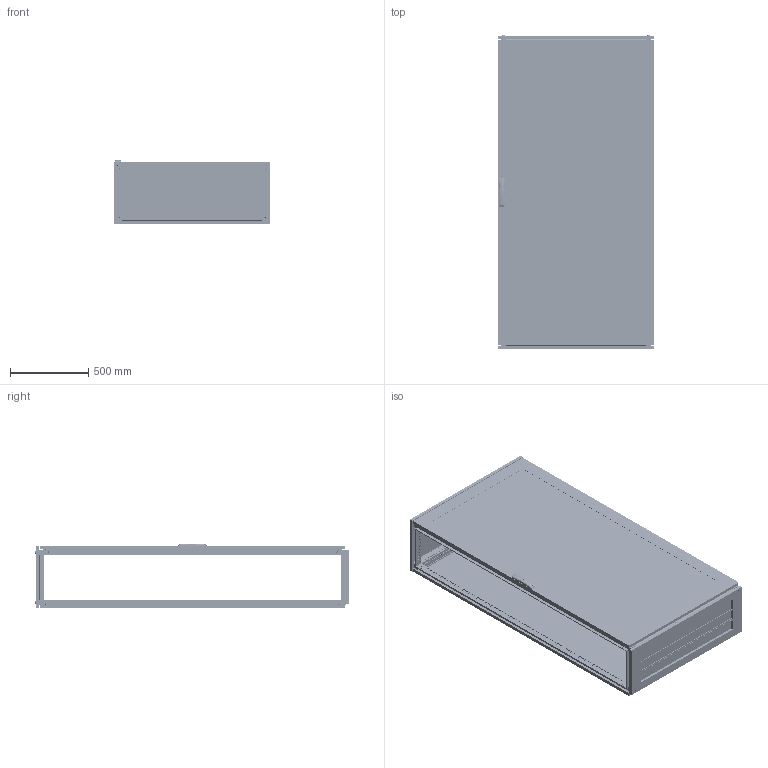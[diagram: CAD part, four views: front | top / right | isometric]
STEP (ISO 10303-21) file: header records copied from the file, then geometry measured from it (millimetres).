
FILE_DESCRIPTION (( 'STEP AP203' ), '1' );
FILE_NAME ('R5CQEN20104AX.STEP', '2025-05-07T12:01:43', ( '' ), ( '' ), 'SwSTEP 2.0', 'SolidWorks 2022', '' );
FILE_SCHEMA (( 'CONFIG_CONTROL_DESIGN' ));
Length unit declared in the file: millimetre
Products named in the file (65): PF 5x10 KTB simple_1000x400; RB.0054.01.01.0 simple_-25; М6х12 A5100231_straight; M6x10 DIN 912 HX cl.8,8 Zinc_straight; M12x16 ISO 7380-1 HX cl.4,8 Zinc_straight; RB.2052.00.00.0 СБ simple_-25; TPA.08.0084.00.00.0 simple; M6 MGR-MKO-0625 simple_Thread; RB.2499.00.00.0 СБ simple_-24; PF 7,5x15 CPE simple_2000x1000; TPA.08.0083.00.00.0 simple; RB.1867.01.00.0 СБ simple_-58; Glass CPTE_2000x1000; RB.2696.00.00.0 simple; ATOS Traction guide ILY03.35; RB.2172.00.00.1 simple; R5NKTB - Assem simple_H=2000 R5NKTB104; Square cap 20x20 simple; RB.2680.00.01.0 simple; RB.2457.00.00.0 СБ simple_-24; M6x10 DIN 7500 E HX cl.5.8 Zinc_straight; RB.2052.01.00.0 СБ simple_-25; RB.2357.00.00.0 simple_-07; 7 DIN 6799 Zinc simple; RB.0528.00.01.0 simple_-05; 4.8x13 DIN 7981 PH Zinc_straight; RB.2755.00.00.0 СБ simple_-24; RB.2455.00.00.0 simple_-04; R5NCRE-Assem simple_R5NCRE20100; R5NKMN - Assem simple_R5NKMN20 (1000х400); TPA.08.0139.00.03.0; AC00C446-R; M6x15 Erickson cl.4,8 Zinc; RB.0562.00.00.0 СБ simple_-17; M6 DIN 985 cl.6,0 Zinc_straight; RB.2528.00.00.0 simple_-05; RB.2499.01.00.0 СБ simple_-23; 7 DIN 6799 Zinc; RB.1728.00.00.0 simple_-03; RB.2968.00.00.0 simple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
Assembly tree (176 placements, depth 5):
  R5CQEN20104AX
    R5NCPTE - Assem simple_R5NCPTE20100
      RB.0562.00.00.0 СБ simple_-17
        RB.0562.01.00.0 СБ simple_-17
          RB.0562.01.01.0 simple_-17
          М6х12 A5100231_straight  x9
          RB.2702.00.00.0 simple  x4
          PF 7,5x15 CPE simple_2000x1000
          Glass CPTE_2000x1000
          Glue CPTE simple_2000x1000
        Square cap 20x20 simple  x2
        M6x15 Erickson cl.4,8 Zinc  x3
        RB.0528.00.01.0 simple_-05  x2
        ATOS Traction guide ILY03.35  x4
        RB.2357.00.00.0 simple_-07
        RB.2680.00.00.0 СБ simple
          TPA.08.0139.00.01.0 simple
          RB.2680.00.01.0 simple
          RB.2680.00.02.0 simple  x2
        TPA.08.0139.00.03.0  x2
        M6 DIN 985 cl.6,0 Zinc_straight  x4
        4,0x16 F Torx Zinc (ART 88200)_thread  x2
        RB.0528.04.00.0 СБ simple  x2
          RB.0528.04.01.0 simple
          Pressing stud FH-M6-12_M6x12mm
      M6x10 DIN 912 HX cl.8,8 Zinc_straight  x8
      4.8x13 DIN 7981 PH Zinc_straight
      7 DIN 6799 Zinc simple  x4
      RB.2968.00.00.0 simple  x4
      RB.2969.00.00.0 СБ simple  x4
        RB.2969.00.01.0 simple
        Pin 4x16 DIN 7 AISI 303 (A1) simple
        M6 MGR-MKO-0625 simple_Thread
      AC00C446-R
      RB.2696.00.00.0 simple  x4
      7 DIN 6799 Zinc  x4
    R5NCRE-Assem simple_R5NCRE20100
      RB.2052.00.00.0 СБ simple_-25
        RB.2052.01.00.0 СБ simple_-25
          RB.0054.01.01.0 simple_-25
          М6х12 A5100231_straight  x4
        PF 7x14 CRE simple_2000x1000
      RB.2172.00.00.1 simple  x8
      M6x10 DIN 7500 E HX cl.5.8 Zinc_straight  x8
      M6x10 DIN 7500 M Torx cl.5.8 Zinc_straight  x8
    R5NKMN - Assem simple_R5NKMN20 (1000х400)
      RB.2528.00.00.0 simple_-05  x4
    R5NKTB - Assem simple_H=2000 R5NKTB104
      RB.2499.00.00.0 СБ simple_-24
        RB.2499.01.00.0 СБ simple_-23
          RB.1633.00.01.0 simple_-04  x2
          RB.1633.00.02.0 simple_default  x2
          PF 5x10 KTB simple_1000x400
        RB.2457.00.00.0 СБ simple_-24
          RB.2455.00.00.0 simple_-04  x2
          RB.2456.00.00.0 simple  x2
          TPA.08.0084.00.00.0 simple  x2
          TPA.08.0083.00.00.0 simple  x2
          M8x12 AC00C476 cl.8,8 Zinc_stright  x4
        RB.1728.00.00.0 simple_-03  x3
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Bounding box: 1000 x 2013.3 x 414.79 mm (x, y, z)
Volume: 20484247.4 mm3; surface area: 16985863.5 mm2
Topology: 179 solids, 195 shells, 23100 faces, 65556 edges, 43202 vertices
Faces by surface type: plane 12849, cylinder 8700, cone 714, bspline 435, torus 368, sphere 34
Entity records: 230060 total; most frequent: CARTESIAN_POINT 56372, ORIENTED_EDGE 34456, DIRECTION 32948, EDGE_CURVE 17254, VERTEX_POINT 11428, AXIS2_PLACEMENT_3D 11075, LINE 10798, VECTOR 10798
